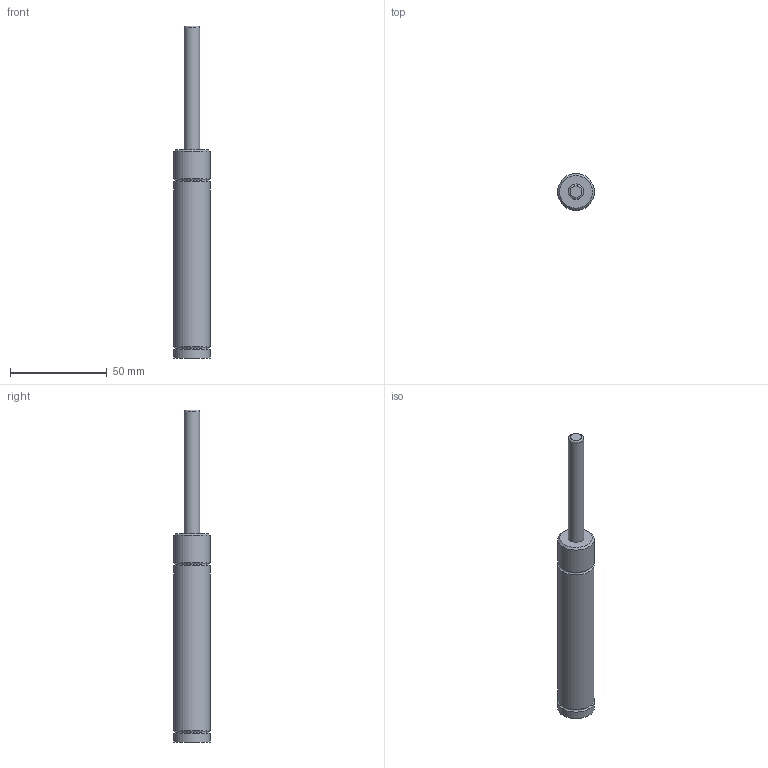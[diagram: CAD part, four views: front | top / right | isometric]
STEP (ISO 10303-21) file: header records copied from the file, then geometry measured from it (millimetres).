
FILE_DESCRIPTION(('FreeCAD Model'),'2;1');
FILE_NAME('Open CASCADE Shape Model','2024-11-14T11:14:48',('Author'),( ''),'Open CASCADE STEP processor 7.6','FreeCAD','Unknown');
FILE_SCHEMA(('AUTOMOTIVE_DESIGN { 1 0 10303 214 1 1 1 1 }'));
Length unit declared in the file: millimetre
Products named in the file (5): Unnamed; Part; Fillet; Part005; Cut001
Assembly tree (4 placements, depth 3):
  Unnamed
    Part
      Fillet
    Part005
      Cut001
Bounding box: 19 x 19 x 172 mm (x, y, z)
Volume: 33462.3 mm3; surface area: 8918.9 mm2
Topology: 2 solids, 2 shells, 16 faces, 25 edges, 14 vertices
Faces by surface type: cylinder 5, torus 5, plane 5, cone 1
Full cylindrical faces by diameter (mm): 6 x1, 8 x1, 19 x3
Entity records: 466 total; most frequent: DIRECTION 86, CARTESIAN_POINT 60, ORIENTED_EDGE 50, AXIS2_PLACEMENT_3D 40, EDGE_CURVE 25, CIRCLE 19, FACE_BOUND 17, EDGE_LOOP 17
